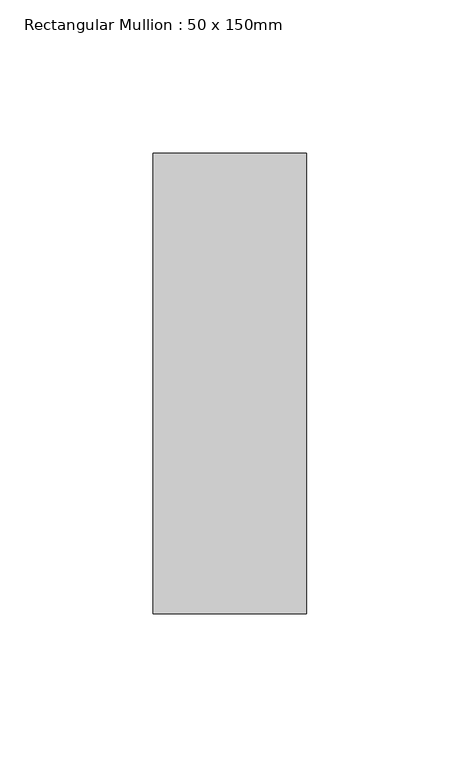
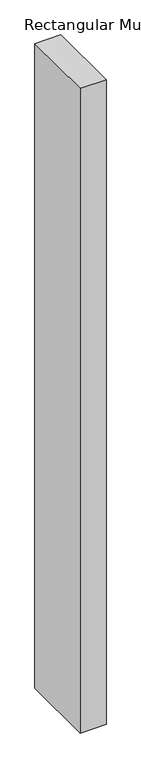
"""IFC4 building model written with IfcOpenShell, lengths in millimetres: member geometry, Rectangular Mullion : 50 x 150mm."""

from ifc_helpers import new_model, si_unit, frame, origin, place, context, project, spatial, polyline, outline, extrude, source, transform, mapped, element, save


def rectangular_mullion_50_x_150mm_3a294e72(model_context):
    return source(origin(), model_context, "Body", "SweptSolid", [
        extrude(outline(polyline([(25.0, 75.0), (25.0, -75.0), (-25.0, -75.0), (-25.0, 75.0), (25.0, 75.0)])), frame((0.0, 0.0, -1308.7702007), z_axis=(0.0, 0.0, 1.0), x_axis=(1.0, 0.0, 0.0)), (0.0, 0.0, 1.0), 1308.7702007),
    ])


if __name__ == "__main__":
    model = new_model("IFC4")
    model_context = context("Model", 3, world=origin())
    ifc_project = project(units=[si_unit("LENGTHUNIT", "METRE", prefix="MILLI")], contexts=[model_context])
    site = spatial("IfcSite", under=ifc_project)
    building = spatial("IfcBuilding", under=site)
    placement = place(None, origin())
    rectangular_mullion_50_x_150mm_shape = rectangular_mullion_50_x_150mm_3a294e72(model_context)
    element("IfcMember", 1, ObjectType="Rectangular Mullion : 50 x 150mm", at=placement, inside=building, context=model_context, shape_type="MappedRepresentation", body=[
        mapped(rectangular_mullion_50_x_150mm_shape, transform((0.0, 0.0, 0.0), x_axis=(1.0, 0.0, 0.0), y_axis=(0.0, 1.0, 0.0), z_axis=(0.0, 0.0, 1.0))),
    ])
    save(model, "model.ifc")
